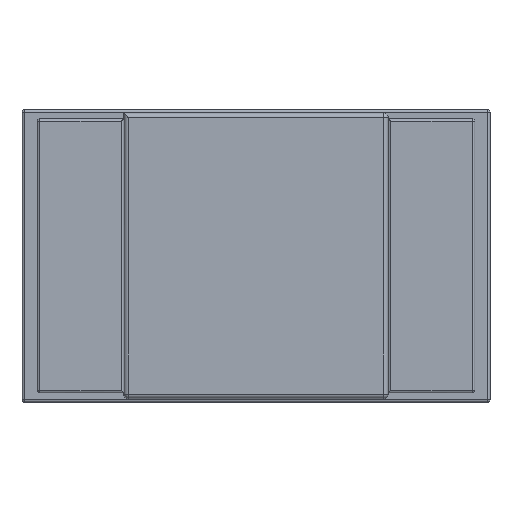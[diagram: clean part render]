
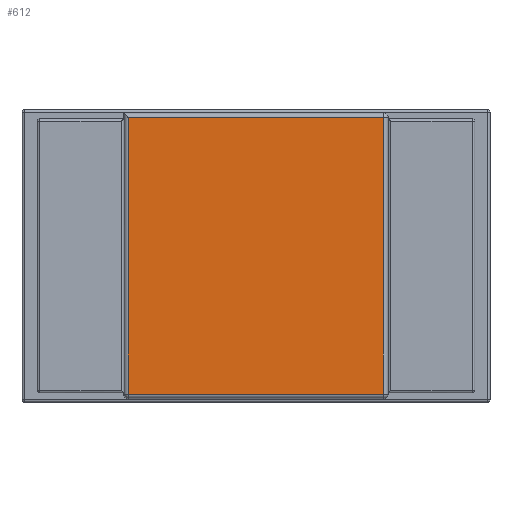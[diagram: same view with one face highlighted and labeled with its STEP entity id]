
A CAD part, top view. The second image highlights one B-rep face of the part: STEP entity #612.
In plain terms, the highlighted planar face has unit normal (0, 0, 1).
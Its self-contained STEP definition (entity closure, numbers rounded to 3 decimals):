
#612=ADVANCED_FACE('',(#1297),#1299,.T.);
#1297=FACE_BOUND('',#1298,.T.);
#1298=EDGE_LOOP('',(#1742,#1743,#1744,#1745));
#1299=PLANE('',#1300);
#1300=AXIS2_PLACEMENT_3D('',#1301,#1302,#1303);
#1301=CARTESIAN_POINT('',(0.,0.,0.49));
#1302=DIRECTION('',(0.,0.,1.));
#1303=DIRECTION('',(-1.,0.,0.));
#1742=ORIENTED_EDGE('',*,*,#2011,.T.);
#1743=ORIENTED_EDGE('',*,*,#2012,.T.);
#1744=ORIENTED_EDGE('',*,*,#2013,.T.);
#1745=ORIENTED_EDGE('',*,*,#2014,.T.);
#2011=EDGE_CURVE('',#2268,#2269,#2270,.T.);
#2012=EDGE_CURVE('',#2269,#2271,#2272,.T.);
#2013=EDGE_CURVE('',#2271,#2273,#2274,.T.);
#2014=EDGE_CURVE('',#2273,#2268,#2275,.T.);
#2268=VERTEX_POINT('',#2845);
#2269=VERTEX_POINT('',#2846);
#2270=LINE('',#2847,#2848);
#2271=VERTEX_POINT('',#2850);
#2272=LINE('',#2851,#2852);
#2273=VERTEX_POINT('',#2854);
#2274=LINE('',#2855,#2856);
#2275=LINE('',#2858,#2859);
#2845=CARTESIAN_POINT('',(-0.545,0.59,0.49));
#2846=CARTESIAN_POINT('',(-0.545,-0.59,0.49));
#2847=CARTESIAN_POINT('',(-0.545,0.59,0.49));
#2848=VECTOR('',#2849,1.);
#2849=DIRECTION('',(0.,-1.,0.));
#2850=CARTESIAN_POINT('',(0.544,-0.59,0.49));
#2851=CARTESIAN_POINT('',(-0.545,-0.59,0.49));
#2852=VECTOR('',#2853,1.);
#2853=DIRECTION('',(1.,0.,0.));
#2854=CARTESIAN_POINT('',(0.544,0.59,0.49));
#2855=CARTESIAN_POINT('',(0.544,-0.59,0.49));
#2856=VECTOR('',#2857,1.);
#2857=DIRECTION('',(0.,1.,0.));
#2858=CARTESIAN_POINT('',(0.544,0.59,0.49));
#2859=VECTOR('',#2860,1.);
#2860=DIRECTION('',(-1.,0.,0.));
